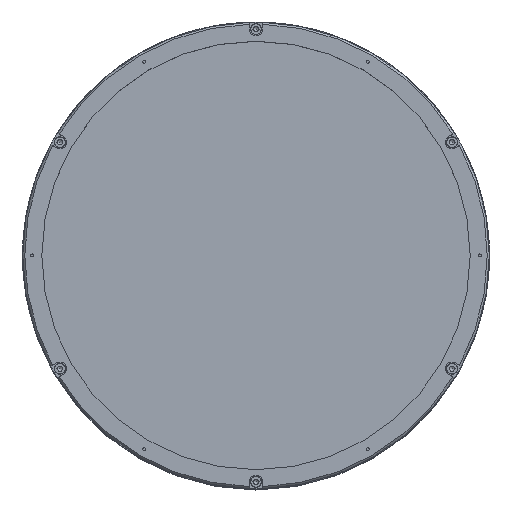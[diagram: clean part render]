
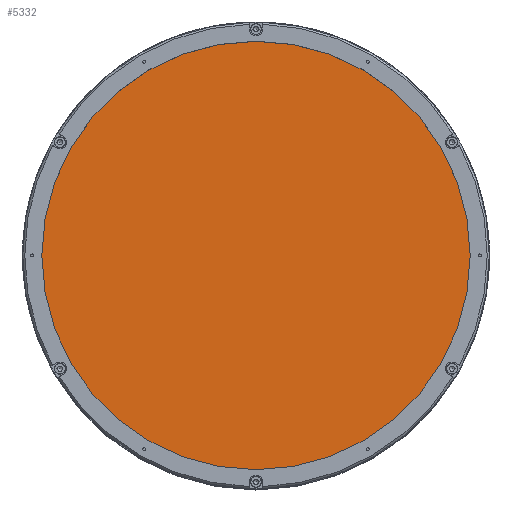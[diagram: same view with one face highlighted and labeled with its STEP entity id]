
A CAD part, top view. The second image highlights one B-rep face of the part: STEP entity #5332.
In plain terms, the highlighted planar face has unit normal (0, 0, 1).
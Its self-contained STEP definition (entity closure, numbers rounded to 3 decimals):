
#252 = VERTEX_POINT ( 'NONE', #13403 ) ;
#1061 = DIRECTION ( 'NONE',  ( -1., 0., 0. ) ) ;
#5332 = ADVANCED_FACE ( 'NONE', ( #17794 ), #17140, .F. ) ;
#5582 = DIRECTION ( 'NONE',  ( 0., 0., -1. ) ) ;
#7897 = AXIS2_PLACEMENT_3D ( 'NONE', #24153, #12540, #1061 ) ;
#11315 = CARTESIAN_POINT ( 'NONE',  ( 0., 0., 443.28 ) ) ;
#12540 = DIRECTION ( 'NONE',  ( 0., 0., -1. ) ) ;
#13403 = CARTESIAN_POINT ( 'NONE',  ( -105.5, 0., 443.28 ) ) ;
#13814 = EDGE_LOOP ( 'NONE', ( #19613 ) ) ;
#17140 = PLANE ( 'NONE',  #22103 ) ;
#17453 = CIRCLE ( 'NONE', #7897, 105.5 ) ;
#17794 = FACE_OUTER_BOUND ( 'NONE', #13814, .T. ) ;
#19088 = DIRECTION ( 'NONE',  ( -1., 0., 0. ) ) ;
#19613 = ORIENTED_EDGE ( 'NONE', *, *, #21049, .F. ) ;
#21049 = EDGE_CURVE ( 'NONE', #252, #252, #17453, .T. ) ;
#22103 = AXIS2_PLACEMENT_3D ( 'NONE', #11315, #5582, #19088 ) ;
#24153 = CARTESIAN_POINT ( 'NONE',  ( 0., 0., 443.28 ) ) ;
